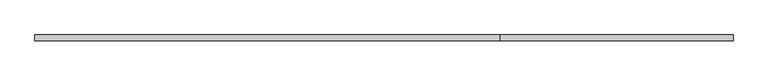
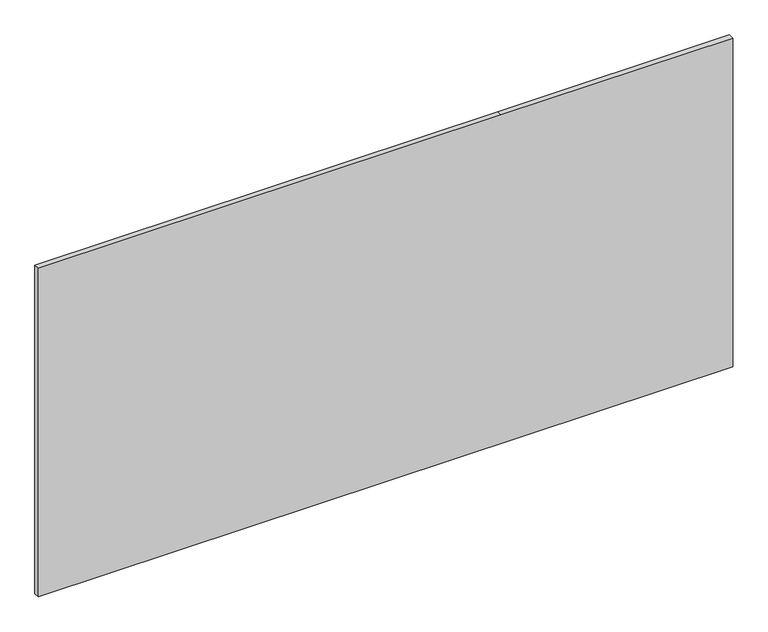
"""IFC4 building model written with IfcOpenShell, lengths in millimetres: plate geometry, 系统嵌板 : 玻璃."""

from ifc_helpers import new_model, si_unit, frame, origin, place, context, project, spatial, polyline, outline, extrude, source, transform, mapped, element, save


def plate_87ba7e3f(model_context):
    return source(origin(), model_context, "Body", "SweptSolid", [
        extrude(outline(polyline([(0.0, -1500.0), (0.0, 1500.0), (1500.0, 1500.0), (1500.0, 500.0), (1500.0, -1500.0), (0.0, -1500.0)])), frame((0.0, -12.5, 0.0), z_axis=(0.0, 1.0, 0.0), x_axis=(0.0, 0.0, 1.0)), (0.0, 0.0, 1.0), 25.0),
    ])


if __name__ == "__main__":
    model = new_model("IFC4")
    model_context = context("Model", 3, world=origin())
    ifc_project = project(units=[si_unit("LENGTHUNIT", "METRE", prefix="MILLI")], contexts=[model_context])
    site = spatial("IfcSite", under=ifc_project)
    building = spatial("IfcBuilding", under=site)
    placement = place(None, origin())
    plate_shape = plate_87ba7e3f(model_context)
    element("IfcPlate", 1, ObjectType="系统嵌板 : 玻璃", at=placement, inside=building, context=model_context, shape_type="MappedRepresentation", body=[
        mapped(plate_shape, transform((0.0, 0.0, 0.0), x_axis=(1.0, 0.0, 0.0), y_axis=(0.0, 1.0, 0.0), z_axis=(0.0, 0.0, 1.0))),
    ])
    save(model, "model.ifc")
